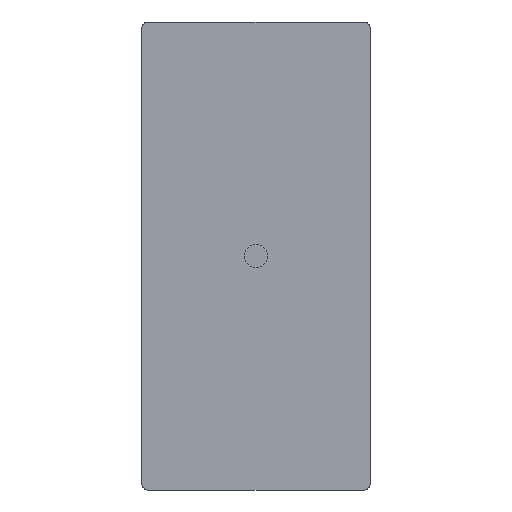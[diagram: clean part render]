
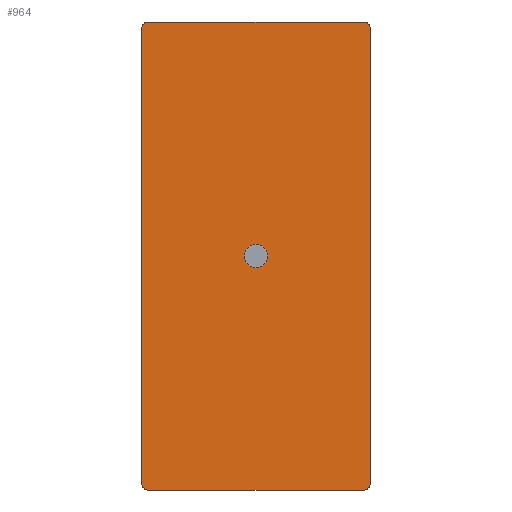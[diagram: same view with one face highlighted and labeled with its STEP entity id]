
A CAD part, left-side view. The second image highlights one B-rep face of the part: STEP entity #964.
In plain terms, the highlighted planar face has unit normal (-1, 0, 0).
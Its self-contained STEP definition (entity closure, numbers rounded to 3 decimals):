
#245=CARTESIAN_POINT('',(-1.,-18.5,39.));
#246=DIRECTION('',(-1.,0.,0.));
#247=DIRECTION('',(0.,-1.,0.));
#248=AXIS2_PLACEMENT_3D('',#245,#246,#247);
#250=DIRECTION('',(0.,0.,1.));
#251=VECTOR('',#250,78.);
#252=CARTESIAN_POINT('',(-1.,-19.5,-39.));
#253=LINE('',#252,#251);
#254=CARTESIAN_POINT('',(-1.,-18.5,-39.));
#255=DIRECTION('',(-1.,0.,0.));
#256=DIRECTION('',(0.,0.,-1.));
#257=AXIS2_PLACEMENT_3D('',#254,#255,#256);
#259=DIRECTION('',(0.,-1.,0.));
#260=VECTOR('',#259,37.);
#261=CARTESIAN_POINT('',(-1.,18.5,-40.));
#262=LINE('',#261,#260);
#263=CARTESIAN_POINT('',(-1.,18.5,-39.));
#264=DIRECTION('',(-1.,0.,0.));
#265=DIRECTION('',(0.,1.,0.));
#266=AXIS2_PLACEMENT_3D('',#263,#264,#265);
#268=DIRECTION('',(0.,0.,-1.));
#269=VECTOR('',#268,78.);
#270=CARTESIAN_POINT('',(-1.,19.5,39.));
#271=LINE('',#270,#269);
#272=CARTESIAN_POINT('',(-1.,18.5,39.));
#273=DIRECTION('',(-1.,0.,0.));
#274=DIRECTION('',(0.,0.,1.));
#275=AXIS2_PLACEMENT_3D('',#272,#273,#274);
#277=DIRECTION('',(0.,1.,0.));
#278=VECTOR('',#277,37.);
#279=CARTESIAN_POINT('',(-1.,-18.5,40.));
#280=LINE('',#279,#278);
#281=CARTESIAN_POINT('',(-1.,0.,0.));
#282=DIRECTION('',(-1.,0.,0.));
#283=DIRECTION('',(0.,-1.,0.));
#284=AXIS2_PLACEMENT_3D('',#281,#282,#283);
#286=CARTESIAN_POINT('',(-1.,0.,0.));
#287=DIRECTION('',(-1.,0.,0.));
#288=DIRECTION('',(0.,1.,0.));
#289=AXIS2_PLACEMENT_3D('',#286,#287,#288);
#409=CARTESIAN_POINT('',(-1.,-2.,0.));
#410=VERTEX_POINT('',#409);
#411=CARTESIAN_POINT('',(-1.,2.,0.));
#412=VERTEX_POINT('',#411);
#413=CARTESIAN_POINT('',(-1.,-19.5,39.));
#414=CARTESIAN_POINT('',(-1.,-18.5,40.));
#415=VERTEX_POINT('',#413);
#416=VERTEX_POINT('',#414);
#417=CARTESIAN_POINT('',(-1.,18.5,40.));
#418=VERTEX_POINT('',#417);
#419=CARTESIAN_POINT('',(-1.,19.5,39.));
#420=VERTEX_POINT('',#419);
#421=CARTESIAN_POINT('',(-1.,19.5,-39.));
#422=VERTEX_POINT('',#421);
#423=CARTESIAN_POINT('',(-1.,18.5,-40.));
#424=VERTEX_POINT('',#423);
#425=CARTESIAN_POINT('',(-1.,-18.5,-40.));
#426=VERTEX_POINT('',#425);
#427=CARTESIAN_POINT('',(-1.,-19.5,-39.));
#428=VERTEX_POINT('',#427);
#943=CARTESIAN_POINT('',(-1.,0.,0.));
#944=DIRECTION('',(-1.,0.,0.));
#945=DIRECTION('',(0.,1.,0.));
#946=AXIS2_PLACEMENT_3D('',#943,#944,#945);
#947=PLANE('',#946);
#948=ORIENTED_EDGE('',*,*,#876,.F.);
#949=ORIENTED_EDGE('',*,*,#891,.F.);
#950=ORIENTED_EDGE('',*,*,#906,.F.);
#951=ORIENTED_EDGE('',*,*,#921,.F.);
#952=ORIENTED_EDGE('',*,*,#935,.F.);
#953=ORIENTED_EDGE('',*,*,#831,.F.);
#954=ORIENTED_EDGE('',*,*,#846,.F.);
#955=ORIENTED_EDGE('',*,*,#861,.F.);
#956=EDGE_LOOP('',(#948,#949,#950,#951,#952,#953,#954,#955));
#957=FACE_OUTER_BOUND('',#956,.F.);
#959=ORIENTED_EDGE('',*,*,#958,.T.);
#961=ORIENTED_EDGE('',*,*,#960,.T.);
#962=EDGE_LOOP('',(#959,#961));
#963=FACE_BOUND('',#962,.F.);
#964=ADVANCED_FACE('',(#957,#963),#947,.T.);
#249=CIRCLE('',#248,1.);
#258=CIRCLE('',#257,1.);
#267=CIRCLE('',#266,1.);
#276=CIRCLE('',#275,1.);
#285=CIRCLE('',#284,2.);
#290=CIRCLE('',#289,2.);
#831=EDGE_CURVE('',#420,#422,#271,.T.);
#846=EDGE_CURVE('',#418,#420,#276,.T.);
#861=EDGE_CURVE('',#416,#418,#280,.T.);
#876=EDGE_CURVE('',#415,#416,#249,.T.);
#891=EDGE_CURVE('',#428,#415,#253,.T.);
#906=EDGE_CURVE('',#426,#428,#258,.T.);
#921=EDGE_CURVE('',#424,#426,#262,.T.);
#935=EDGE_CURVE('',#422,#424,#267,.T.);
#958=EDGE_CURVE('',#410,#412,#285,.T.);
#960=EDGE_CURVE('',#412,#410,#290,.T.);
